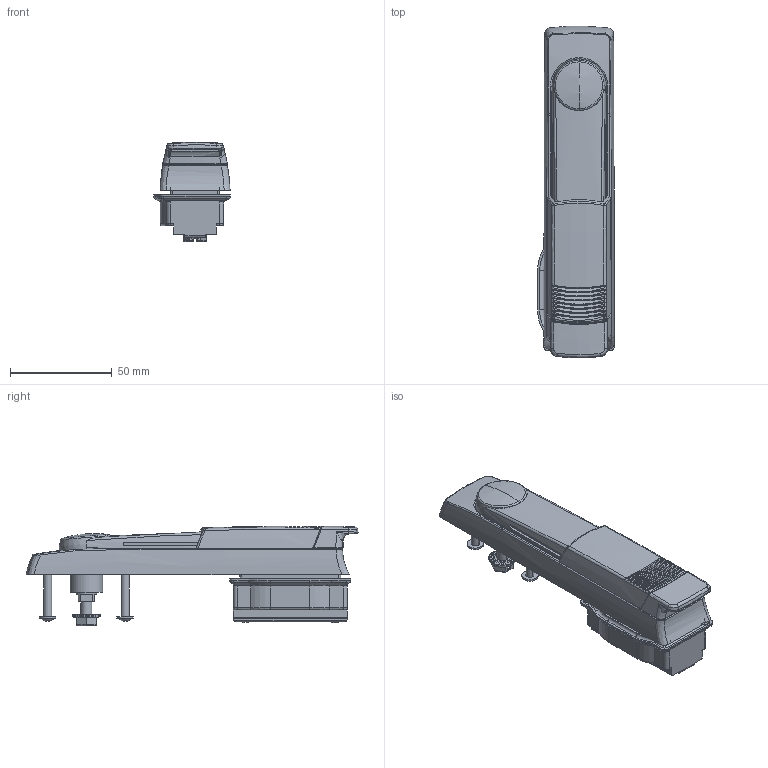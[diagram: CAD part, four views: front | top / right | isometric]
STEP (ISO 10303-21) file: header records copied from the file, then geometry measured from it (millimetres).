
FILE_DESCRIPTION((''),'2;1');
FILE_NAME('1225-U191_ASM','2004-02-02T',('Stiegler'),('EMKA Beschlagteile GmbH & CO KG'),'PRO/ENGINEER BY PARAMETRIC TECHNOLOGY CORPORATION, 2003200','PRO/ENGINEER BY PARAMETRIC TECHNOLOGY CORPORATION, 2003200','');
FILE_SCHEMA(('AUTOMOTIVE_DESIGN { 1 2 10303 214 0 1 1 1 }'));
Length unit declared in the file: millimetre
Products named in the file (17): 1225-07K-01_AF0; 1225-09K_AF0; 1125-12-02_AF0; 1225-10_AF0; 1107-14_AF0; 1107-15_AF0; 1225-B140_AF0_ASM; D965_M5X16_AF0; 1125-66-07_AF0; K40X25_AF0; K40X25_AF1; K40X25_AF2; K40X25_AF3; 1000-277-01_AF0; 1000-03_AF0; 1125-B164_AF0_ASM; 1225-U191_ASM
Assembly tree (16 placements, depth 3):
  1225-U191_ASM
    1225-07K-01_AF0
    1225-B140_AF0_ASM
      1225-09K_AF0
      1125-12-02_AF0
      1225-10_AF0
      1107-14_AF0
      1107-15_AF0
    1125-B164_AF0_ASM
      D965_M5X16_AF0
      1125-66-07_AF0
      K40X25_AF0
      K40X25_AF1
      K40X25_AF2
      K40X25_AF3
      1000-277-01_AF0
      1000-03_AF0
Bounding box: 37.6 x 162.83 x 48.75 mm (x, y, z)
Volume: 80190.2 mm3; surface area: 61669.9 mm2
Topology: 14 solids, 14 shells, 1443 faces, 3724 edges, 2357 vertices
Faces by surface type: plane 769, cylinder 358, bspline 123, torus 116, cone 45, sphere 32
Entity records: 60634 total; most frequent: CARTESIAN_POINT 14307, ORIENTED_EDGE 7432, DIRECTION 6865, PRESENTATION_STYLE_ASSIGNMENT 3730, STYLED_ITEM 3730, CURVE_STYLE 3716, EDGE_CURVE 3716, AXIS2_PLACEMENT_3D 2405
